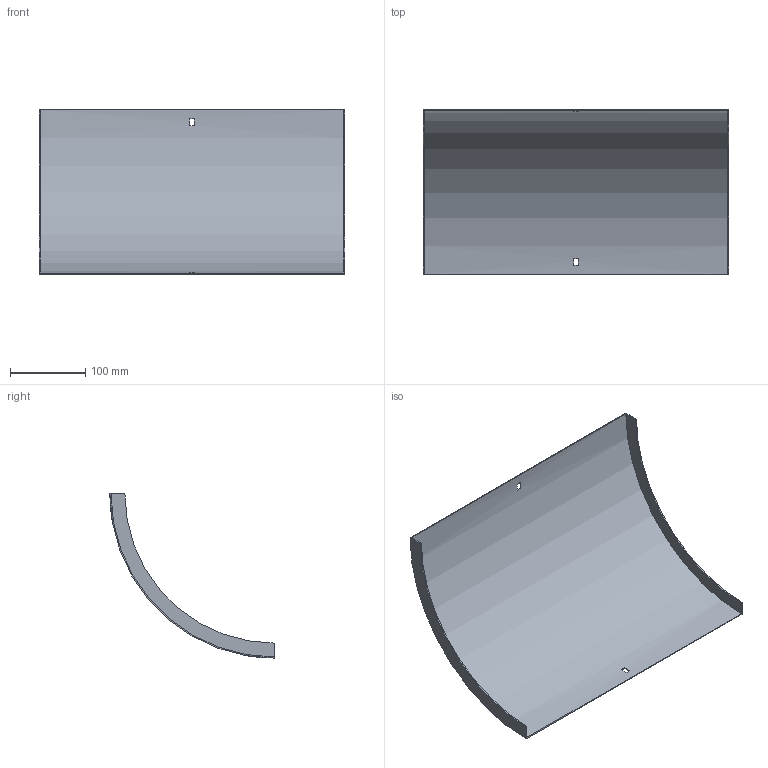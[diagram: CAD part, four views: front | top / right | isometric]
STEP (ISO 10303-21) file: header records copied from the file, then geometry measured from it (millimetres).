
FILE_DESCRIPTION (( 'STEP AP214' ), '1' );
FILE_NAME ('33N1J400.step', '2025-02-21T09:17:37', ( '' ), ( '' ), 'SwSTEP 2.0', 'SolidWorks 2023', '' );
FILE_SCHEMA (( 'AUTOMOTIVE_DESIGN' ));
Length unit declared in the file: millimetre
Products named in the file (1): 33N1J400
Bounding box: 407 x 219 x 219 mm (x, y, z)
Volume: 227274.5 mm3; surface area: 305399.3 mm2
Topology: 1 solids, 1 shells, 18 faces, 48 edges, 32 vertices
Faces by surface type: plane 14, cylinder 4
Entity records: 599 total; most frequent: DIRECTION 102, CARTESIAN_POINT 99, ORIENTED_EDGE 96, EDGE_CURVE 48, AXIS2_PLACEMENT_3D 35, VECTOR 32, LINE 32, VERTEX_POINT 32
